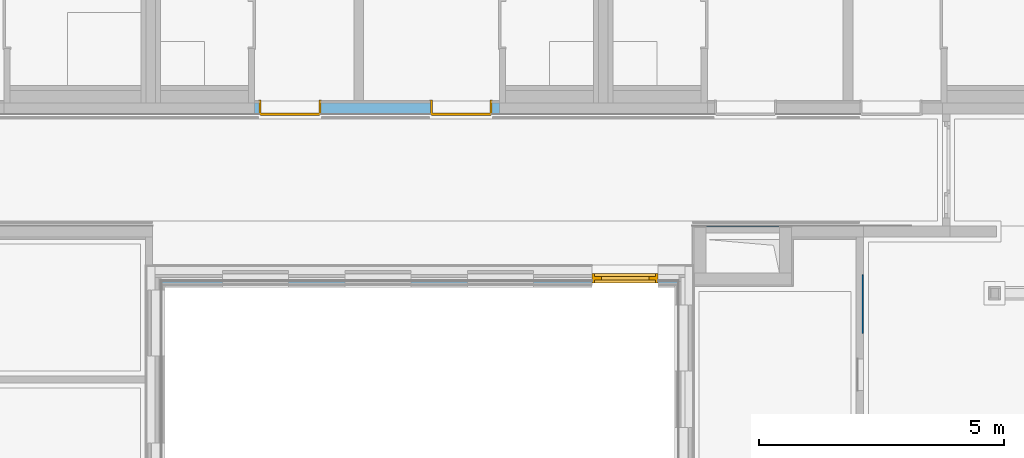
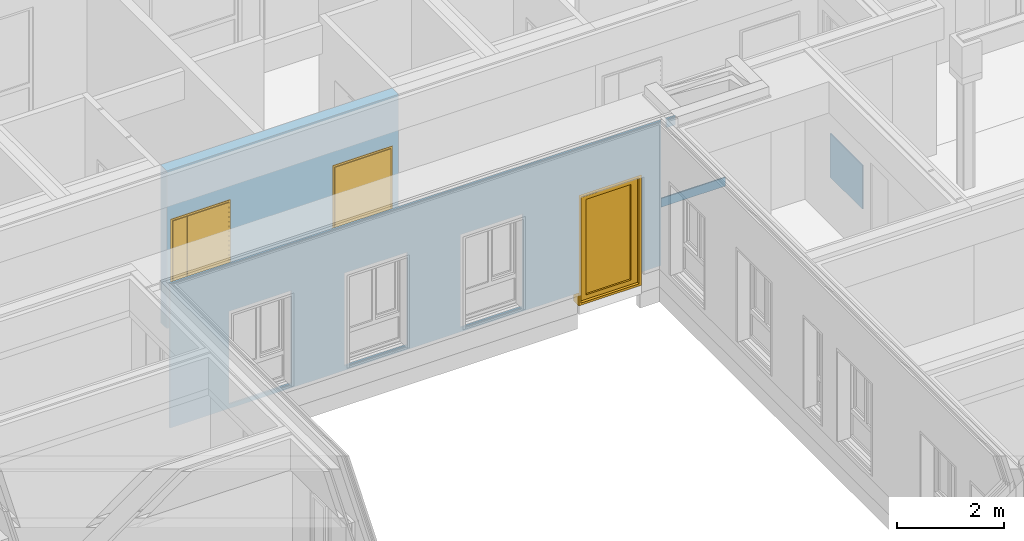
# One storey, part 85 of 207: 3 doors, 2 walls, 6 openings, plus 2 elements that do not belong to this part.
"""IFC4 building model written with IfcOpenShell, lengths in metres."""

from ifc_helpers import new_model, entity, si_unit, converted_unit, derived_unit, frame, frame_2d, origin, origin_with_axes, place, context, subcontext, project, spatial, polyline, rectangle, outline, extrude, clip, bounded_halfspace, closed_shell, open_shell, faceted_brep, surface_model, source, transform, mapped, material, type_object, element, fill, save


model = new_model("IFC4")

# Units and contexts
model_context = context("Model", 3, precision=1e-05, world=origin())
body_context = subcontext(model_context, "Body", "Model", "MODEL_VIEW")
ifc_project = project(units=[si_unit("LENGTHUNIT", "METRE"), si_unit("AREAUNIT", "SQUARE_METRE"), si_unit("VOLUMEUNIT", "CUBIC_METRE"), si_unit("MASSUNIT", "GRAM", prefix="KILO"), converted_unit("PLANEANGLEUNIT", "DEGREE", entity("IfcPlaneAngleMeasure", 0.0174532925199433), si_unit("PLANEANGLEUNIT", "RADIAN"), dimensions=[0, 0, 0, 0, 0, 0, 0]), derived_unit("THERMALTRANSMITTANCEUNIT", [(si_unit("POWERUNIT", "WATT"), 1), (si_unit("THERMODYNAMICTEMPERATUREUNIT", "KELVIN"), -1), (si_unit("LENGTHUNIT", "METRE"), -2)]), derived_unit("VOLUMETRICFLOWRATEUNIT", [(si_unit("LENGTHUNIT", "METRE"), 3), (converted_unit("TIMEUNIT", "hour", entity("IfcTimeMeasure", 3600.0), si_unit("TIMEUNIT", "SECOND"), dimensions=[0, 0, 1, 0, 0, 0, 0]), -1), (si_unit("LENGTHUNIT", "METRE"), -1)])], contexts=[model_context])

# Site, building, storey
site_placement = place(None, origin())
site = spatial("IfcSite", under=ifc_project, at=site_placement, Name="Psychiatrie Neubau Wunstorf", CompositionType="ELEMENT")
building_placement = place(site_placement, origin())
building = spatial("IfcBuilding", under=site, at=building_placement, Name="Neubau H2 Stationsgebäude", CompositionType="ELEMENT")
storey_placement = place(building_placement, frame((0.0, 0.0, -0.2)))
storey = spatial("IfcBuildingStorey", under=building, at=storey_placement, Name="H2 Ebene 0", CompositionType="ELEMENT", Elevation=-0.2)

# Wall, openings, door
ifc_material_1 = material(Name="WA-LB")
wall_1_placement = place(storey_placement, frame((26.861, 20.7, 0.5), z_axis=(0.0, 0.0, 1.0), x_axis=(-1.0, 0.0, 0.0)))
wall_1 = element("IfcWall", 1, at=wall_1_placement, inside=storey, material=ifc_material_1, context=body_context, shape_type="Clipping", body=[
    clip(extrude(rectangle(XDim=10.598, YDim=0.036, at=frame_2d((5.299, 0.018), x_axis=(1.0, 0.0))), frame((0.312, 0.0, 0.0), z_axis=(0.0, 0.0, 1.0), x_axis=(1.0, 0.0, 0.0)), (0.0, 0.0, 1.0), 3.3), bounded_halfspace(frame((0.098, 0.018, 3.1), z_axis=(1.16006977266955e-15, 6.31593542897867e-15, 1.0), x_axis=(1.0, 0.0, -2.3201395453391e-15)), True, origin_with_axes(), polyline([(0.0, 0.0), (0.196, 0.0), (0.196, 0.036), (0.0, 0.036), (0.0, 0.0)]))),
    clip(extrude(rectangle(XDim=0.196, YDim=0.036, at=frame_2d((0.098, 0.018), x_axis=(1.0, 0.0))), origin_with_axes(), (0.0, 0.0, 1.0), 3.3), bounded_halfspace(frame((0.098, 0.018, 3.1), z_axis=(1.16006977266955e-15, 6.31593542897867e-15, 1.0), x_axis=(1.0, 0.0, -2.3201395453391e-15)), True, origin_with_axes(), polyline([(0.0, 0.0), (0.196, 0.0), (0.196, 0.036), (0.0, 0.036), (0.0, 0.0)]))),
])
opening_1_placement = place(wall_1_placement, frame((9.64069999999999, 0.036, 0.1), z_axis=(0.0, -1.0, 0.0), x_axis=(0.0, 0.0, 1.0)))
element("IfcOpeningElement", 2, at=opening_1_placement, cuts=wall_1, Name="Fensteröffnung", ObjectType="Opening", context=body_context, shape_type="SweptSolid", body=[
    extrude(outline(polyline([(2.12, 1.35), (2.12, 0.0), (0.0, 0.0), (0.0, 1.35), (2.12, 1.35)])), origin_with_axes(), (0.0, 0.0, 1.0), 0.036),
])
opening_2_placement = place(wall_1_placement, frame((7.14069999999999, 0.036, 0.1), z_axis=(0.0, -1.0, 0.0), x_axis=(0.0, 0.0, 1.0)))
element("IfcOpeningElement", 3, at=opening_2_placement, cuts=wall_1, Name="Fensteröffnung", ObjectType="Opening", context=body_context, shape_type="SweptSolid", body=[
    extrude(outline(polyline([(2.12, 1.35), (2.12, 0.0), (0.0, 0.0), (0.0, 1.35), (2.12, 1.35)])), origin_with_axes(), (0.0, 0.0, 1.0), 0.036),
])
opening_3_placement = place(wall_1_placement, frame((4.64069999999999, 0.036, 0.1), z_axis=(0.0, -1.0, 0.0), x_axis=(0.0, 0.0, 1.0)))
element("IfcOpeningElement", 4, at=opening_3_placement, cuts=wall_1, Name="Fensteröffnung", ObjectType="Opening", context=body_context, shape_type="SweptSolid", body=[
    extrude(outline(polyline([(2.12, 1.35), (2.12, 0.0), (0.0, 0.0), (0.0, 1.35), (2.12, 1.35)])), origin_with_axes(), (0.0, 0.0, 1.0), 0.036),
])
opening_4_placement = place(wall_1_placement, frame((2.09083132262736, 0.036, -0.5), z_axis=(0.0, -1.0, 0.0), x_axis=(0.0, 0.0, 1.0)))
opening_4 = element("IfcOpeningElement", 5, at=opening_4_placement, cuts=wall_1, Name="Türöffnung", ObjectType="Opening", context=body_context, shape_type="SweptSolid", body=[
    extrude(outline(polyline([(2.72, 1.35), (2.72, 0.0), (0.0, 0.0), (0.0, 1.35), (2.72, 1.35)])), origin_with_axes(), (0.0, 0.0, 1.0), 0.036),
])
ifc_material_2 = material(Name="TA-1F-AG-D-O")
door_type_1 = type_object("IfcDoorType", Name="SMT", OperationType="SINGLE_SWING_LEFT", ParameterTakesPrecedence=False, PredefinedType="DOOR")
shared_shape_1 = source(origin_with_axes(), body_context, "Body", "SurfaceModel", [
    surface_model("IfcShellBasedSurfaceModel", [(0.0, 0.2, 2.72), (0.0, 0.2, 0.2), (0.05, 0.2, 0.2), (0.05, 0.2, 2.72), (0.0, 0.0, 0.2), (0.0, 0.0, 2.72), (0.05, 0.0, 2.72), (0.05, 0.0, 0.2)], [closed_shell([[[0, 1, 2, 3]], [[4, 5, 6, 7]], [[1, 0, 5, 4]], [[2, 1, 4, 7]], [[3, 2, 7, 6]], [[0, 3, 6, 5]]], orient=[[False], [False], [False], [False], [False], [False]])]),
    surface_model("IfcShellBasedSurfaceModel", [(1.3, 0.2, 2.72), (1.3, 0.2, 0.2), (1.35, 0.2, 0.2), (1.35, 0.2, 2.72), (1.3, 0.0, 0.2), (1.3, 0.0, 2.72), (1.35, 0.0, 2.72), (1.35, 0.0, 0.2)], [closed_shell([[[0, 1, 2, 3]], [[4, 5, 6, 7]], [[1, 0, 5, 4]], [[2, 1, 4, 7]], [[3, 2, 7, 6]], [[0, 3, 6, 5]]], orient=[[False], [False], [False], [False], [False], [False]])]),
    surface_model("IfcShellBasedSurfaceModel", [(0.05, 0.2, 0.25), (0.05, 0.2, 0.2), (1.3, 0.2, 0.2), (1.3, 0.2, 0.25), (0.05, 0.0, 0.2), (0.05, 0.0, 0.25), (1.3, 0.0, 0.25), (1.3, 0.0, 0.2)], [closed_shell([[[0, 1, 2, 3]], [[4, 5, 6, 7]], [[1, 0, 5, 4]], [[2, 1, 4, 7]], [[3, 2, 7, 6]], [[0, 3, 6, 5]]], orient=[[False], [False], [False], [False], [False], [False]])]),
    surface_model("IfcShellBasedSurfaceModel", [(0.05, 0.2, 2.72), (0.05, 0.2, 2.67), (1.3, 0.2, 2.67), (1.3, 0.2, 2.72), (0.05, 0.0, 2.67), (0.05, 0.0, 2.72), (1.3, 0.0, 2.72), (1.3, 0.0, 2.67)], [closed_shell([[[0, 1, 2, 3]], [[4, 5, 6, 7]], [[1, 0, 5, 4]], [[2, 1, 4, 7]], [[3, 2, 7, 6]], [[0, 3, 6, 5]]], orient=[[False], [False], [False], [False], [False], [False]])]),
    surface_model("IfcShellBasedSurfaceModel", [(0.05, 0.14, 2.67), (0.05, 0.14, 0.25), (0.13, 0.14, 0.25), (0.13, 0.14, 2.67), (0.05, 0.06, 0.25), (0.05, 0.06, 2.67), (0.13, 0.06, 2.67), (0.13, 0.06, 0.25)], [closed_shell([[[0, 1, 2, 3]], [[4, 5, 6, 7]], [[1, 0, 5, 4]], [[2, 1, 4, 7]], [[3, 2, 7, 6]], [[0, 3, 6, 5]]], orient=[[False], [False], [False], [False], [False], [False]])]),
    surface_model("IfcShellBasedSurfaceModel", [(1.22, 0.14, 2.67), (1.22, 0.14, 0.25), (1.3, 0.14, 0.25), (1.3, 0.14, 2.67), (1.22, 0.06, 0.25), (1.22, 0.06, 2.67), (1.3, 0.06, 2.67), (1.3, 0.06, 0.25)], [closed_shell([[[0, 1, 2, 3]], [[4, 5, 6, 7]], [[1, 0, 5, 4]], [[2, 1, 4, 7]], [[3, 2, 7, 6]], [[0, 3, 6, 5]]], orient=[[False], [False], [False], [False], [False], [False]])]),
    surface_model("IfcShellBasedSurfaceModel", [(0.13, 0.14, 2.67), (0.13, 0.14, 2.59), (1.22, 0.14, 2.59), (1.22, 0.14, 2.67), (0.13, 0.06, 2.59), (0.13, 0.06, 2.67), (1.22, 0.06, 2.67), (1.22, 0.06, 2.59)], [closed_shell([[[0, 1, 2, 3]], [[4, 5, 6, 7]], [[1, 0, 5, 4]], [[2, 1, 4, 7]], [[3, 2, 7, 6]], [[0, 3, 6, 5]]], orient=[[False], [False], [False], [False], [False], [False]])]),
    surface_model("IfcShellBasedSurfaceModel", [(0.11, 0.141, 2.61), (0.11, 0.141, 0.23), (0.19, 0.141, 0.23), (0.19, 0.141, 2.61), (0.11, 0.061, 0.23), (0.11, 0.061, 2.61), (0.19, 0.061, 2.61), (0.19, 0.061, 0.23)], [closed_shell([[[0, 1, 2, 3]], [[4, 5, 6, 7]], [[1, 0, 5, 4]], [[2, 1, 4, 7]], [[3, 2, 7, 6]], [[0, 3, 6, 5]]], orient=[[False], [False], [False], [False], [False], [False]])]),
    surface_model("IfcShellBasedSurfaceModel", [(1.16, 0.141, 2.61), (1.16, 0.141, 0.23), (1.24, 0.141, 0.23), (1.24, 0.141, 2.61), (1.16, 0.061, 0.23), (1.16, 0.061, 2.61), (1.24, 0.061, 2.61), (1.24, 0.061, 0.23)], [closed_shell([[[0, 1, 2, 3]], [[4, 5, 6, 7]], [[1, 0, 5, 4]], [[2, 1, 4, 7]], [[3, 2, 7, 6]], [[0, 3, 6, 5]]], orient=[[False], [False], [False], [False], [False], [False]])]),
    surface_model("IfcShellBasedSurfaceModel", [(0.19, 0.141, 0.35), (0.19, 0.141, 0.23), (1.16, 0.141, 0.23), (1.16, 0.141, 0.35), (0.19, 0.061, 0.23), (0.19, 0.061, 0.35), (1.16, 0.061, 0.35), (1.16, 0.061, 0.23)], [closed_shell([[[0, 1, 2, 3]], [[4, 5, 6, 7]], [[1, 0, 5, 4]], [[2, 1, 4, 7]], [[3, 2, 7, 6]], [[0, 3, 6, 5]]], orient=[[False], [False], [False], [False], [False], [False]])]),
    surface_model("IfcShellBasedSurfaceModel", [(0.19, 0.141, 2.61), (0.19, 0.141, 2.53), (1.16, 0.141, 2.53), (1.16, 0.141, 2.61), (0.19, 0.061, 2.53), (0.19, 0.061, 2.61), (1.16, 0.061, 2.61), (1.16, 0.061, 2.53)], [closed_shell([[[0, 1, 2, 3]], [[4, 5, 6, 7]], [[1, 0, 5, 4]], [[2, 1, 4, 7]], [[3, 2, 7, 6]], [[0, 3, 6, 5]]], orient=[[False], [False], [False], [False], [False], [False]])]),
    surface_model("IfcShellBasedSurfaceModel", [(0.19, 0.101, 0.35), (1.16, 0.101, 0.35), (1.16, 0.101, 2.53), (0.19, 0.101, 2.53)], [open_shell([[[0, 1, 2, 3]]], orient=[[False]])]),
])
door_1_placement = place(opening_4_placement, frame((0.0, 1.35, 0.2), z_axis=(1.0, 0.0, 0.0), x_axis=(0.0, -1.0, 0.0)))
door_1 = element("IfcDoor", 6, at=door_1_placement, inside=storey, type_object=door_type_1, material=ifc_material_2, Name="SMT", OverallHeight=2.72, OverallWidth=1.35, context=body_context, shape_type="MappedRepresentation", body=[
    mapped(shared_shape_1, transform((0.0, 0.0, 0.0), x_axis=(1.0, 0.0, 0.0), y_axis=(0.0, 1.0, 0.0), z_axis=(0.0, 0.0, 1.0), scale=1.0)),
])
fill(opening_4, door_1)

# Walls
wall_2_placement = place(storey_placement, frame((30.2918490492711, 19.634, 1.1)))
element("IfcWall", 7, at=wall_2_placement, inside=storey, Name="WV 1.1", context=body_context, shape_type="Brep", body=[
    faceted_brep([(0.025, 1.2, 0.0), (0.0, 1.2, 0.0), (0.0, 0.0, 0.0), (0.025, 0.0, 0.0), (0.0, 1.2, 1.0), (0.025, 1.2, 1.0), (0.025, 0.0, 1.0), (0.0, 0.0, 1.0)], [[[0, 1, 2, 3]], [[4, 5, 6, 7]], [[1, 0, 5, 4]], [[2, 1, 4, 7]], [[3, 2, 7, 6]], [[0, 3, 6, 5]]], orient=[[False], [False], [False], [False], [False], [False]]),
])
wall_3_placement = place(storey_placement, frame((27.1, 21.811, 0.9)))
element("IfcWall", 8, at=wall_3_placement, inside=storey, Name="WV 1.1", context=body_context, shape_type="Brep", body=[
    faceted_brep([(0.0, 0.025, 0.0), (0.0, 0.0, 0.0), (1.5, 0.0, 0.0), (1.5, 0.025, 0.0), (0.0, 0.0, 0.2), (0.0, 0.025, 0.2), (1.5, 0.025, 0.2), (1.5, 0.0, 0.2)], [[[0, 1, 2, 3]], [[4, 5, 6, 7]], [[1, 0, 5, 4]], [[2, 1, 4, 7]], [[3, 2, 7, 6]], [[0, 3, 6, 5]]], orient=[[False], [False], [False], [False], [False], [False]]),
])

# Wall, openings, doors
ifc_material_3 = material(Name="WI-HW 60")
wall_4_placement = place(storey_placement, frame((17.875, 24.1175, 0.0), z_axis=(0.0, 0.0, 1.0), x_axis=(1.0, 2.91038304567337e-15, 0.0)))
wall_4 = element("IfcWall", 9, at=wall_4_placement, inside=storey, material=ifc_material_3, context=body_context, shape_type="SweptSolid", body=[
    extrude(rectangle(XDim=5.0, YDim=0.232, at=frame_2d((2.5, 0.116), x_axis=(1.0, 0.0))), origin_with_axes(), (0.0, 0.0, 1.0), 3.6),
])
opening_5_placement = place(wall_4_placement, frame((0.09, 0.0, 0.0), z_axis=(2.940176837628e-15, 1.0, 0.0), x_axis=(0.0, 0.0, 1.0)))
opening_5 = element("IfcOpeningElement", 10, at=opening_5_placement, cuts=wall_4, Name="Türöffnung", ObjectType="Opening", context=body_context, shape_type="SweptSolid", body=[
    extrude(outline(polyline([(2.46, 1.26), (2.46, 0.0), (0.0, 0.0), (0.0, 1.26), (2.46, 1.26)])), origin_with_axes(), (0.0, 0.0, 1.0), 0.232),
])
opening_6_placement = place(wall_4_placement, frame((3.59, 0.0, 0.0), z_axis=(1.960117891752e-15, 1.0, 0.0), x_axis=(0.0, 0.0, 1.0)))
opening_6 = element("IfcOpeningElement", 11, at=opening_6_placement, cuts=wall_4, Name="Türöffnung", ObjectType="Opening", context=body_context, shape_type="SweptSolid", body=[
    extrude(outline(polyline([(2.46, 1.26), (2.46, 0.0), (0.0, 0.0), (0.0, 1.26), (2.46, 1.26)])), origin_with_axes(), (0.0, 0.0, 1.0), 0.232),
])
ifc_material_4 = material(Name="TI-2F-UZ-D")
door_type_2 = type_object("IfcDoorType", Name="SMT", OperationType="DOUBLE_DOOR_SINGLE_SWING", ParameterTakesPrecedence=False, PredefinedType="DOOR")
shared_shape_2 = source(origin_with_axes(), body_context, "Body", "Brep", [
    faceted_brep([(0.0, -0.015, 2.46), (0.04, -0.015, 2.46), (0.04, -0.015, 0.2), (0.0, -0.015, 0.2), (0.0, 0.287000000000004, 0.2), (0.04, 0.287000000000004, 0.2), (0.04, 0.287000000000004, 2.46), (0.0, 0.287000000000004, 2.46)], [[[0, 1, 2, 3]], [[4, 5, 6, 7]], [[3, 4, 7, 0]], [[2, 5, 4, 3]], [[1, 6, 5, 2]], [[0, 7, 6, 1]]], orient=[[False], [False], [False], [False], [False], [False]]),
    faceted_brep([(0.0, -0.015, 2.475), (0.0, -0.015, 0.2), (-0.015, -0.015, 0.2), (-0.015, -0.015, 2.475), (0.0, 0.0, 0.2), (0.0, 0.0, 2.475), (-0.015, 0.0, 2.475), (-0.015, 0.0, 0.2)], [[[0, 1, 2, 3]], [[4, 5, 6, 7]], [[1, 0, 5, 4]], [[2, 1, 4, 7]], [[3, 2, 7, 6]], [[0, 3, 6, 5]]], orient=[[False], [False], [False], [False], [False], [False]]),
    faceted_brep([(0.0, 0.272000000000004, 2.475), (0.0, 0.272000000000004, 0.2), (-0.015, 0.272000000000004, 0.2), (-0.015, 0.272000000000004, 2.475), (0.0, 0.287000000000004, 0.2), (0.0, 0.287000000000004, 2.475), (-0.015, 0.287000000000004, 2.475), (-0.015, 0.287000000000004, 0.2)], [[[0, 1, 2, 3]], [[4, 5, 6, 7]], [[1, 0, 5, 4]], [[2, 1, 4, 7]], [[3, 2, 7, 6]], [[0, 3, 6, 5]]], orient=[[False], [False], [False], [False], [False], [False]]),
    faceted_brep([(1.22, -0.0150000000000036, 2.46), (1.26, -0.0150000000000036, 2.46), (1.26, -0.0150000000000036, 0.2), (1.22, -0.0150000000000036, 0.2), (1.22, 0.287, 0.2), (1.26, 0.287, 0.2), (1.26, 0.287, 2.46), (1.22, 0.287, 2.46)], [[[0, 1, 2, 3]], [[4, 5, 6, 7]], [[3, 4, 7, 0]], [[2, 5, 4, 3]], [[1, 6, 5, 2]], [[0, 7, 6, 1]]], orient=[[False], [False], [False], [False], [False], [False]]),
    faceted_brep([(1.26, -0.0150000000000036, 2.475), (1.275, -0.0150000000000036, 2.475), (1.275, -0.0150000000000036, 0.2), (1.26, -0.0150000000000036, 0.2), (1.26, 0.0, 0.2), (1.275, 0.0, 0.2), (1.275, 0.0, 2.475), (1.26, 0.0, 2.475)], [[[0, 1, 2, 3]], [[4, 5, 6, 7]], [[3, 4, 7, 0]], [[2, 5, 4, 3]], [[1, 6, 5, 2]], [[0, 7, 6, 1]]], orient=[[False], [False], [False], [False], [False], [False]]),
    faceted_brep([(1.26, 0.272, 2.475), (1.275, 0.272, 2.475), (1.275, 0.272, 0.2), (1.26, 0.272, 0.2), (1.26, 0.287, 0.2), (1.275, 0.287, 0.2), (1.275, 0.287, 2.475), (1.26, 0.287, 2.475)], [[[0, 1, 2, 3]], [[4, 5, 6, 7]], [[3, 4, 7, 0]], [[2, 5, 4, 3]], [[1, 6, 5, 2]], [[0, 7, 6, 1]]], orient=[[False], [False], [False], [False], [False], [False]]),
    faceted_brep([(0.04, -0.015, 2.46), (1.22, -0.0150000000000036, 2.46), (1.22, -0.0150000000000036, 2.42), (0.04, -0.015, 2.42), (0.04, 0.287000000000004, 2.42), (1.22, 0.287, 2.42), (1.22, 0.287, 2.46), (0.04, 0.287000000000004, 2.46)], [[[0, 1, 2, 3]], [[4, 5, 6, 7]], [[3, 4, 7, 0]], [[2, 5, 4, 3]], [[1, 6, 5, 2]], [[0, 7, 6, 1]]], orient=[[False], [False], [False], [False], [False], [False]]),
    faceted_brep([(0.0, -0.015, 2.475), (1.26, -0.0150000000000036, 2.475), (1.26, -0.0150000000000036, 2.46), (0.0, -0.015, 2.46), (0.0, 0.0, 2.46), (1.26, 0.0, 2.46), (1.26, 0.0, 2.475), (0.0, 0.0, 2.475)], [[[0, 1, 2, 3]], [[4, 5, 6, 7]], [[3, 4, 7, 0]], [[2, 5, 4, 3]], [[1, 6, 5, 2]], [[0, 7, 6, 1]]], orient=[[False], [False], [False], [False], [False], [False]]),
    faceted_brep([(0.0, 0.272000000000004, 2.475), (1.26, 0.272, 2.475), (1.26, 0.272, 2.46), (0.0, 0.272000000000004, 2.46), (0.0, 0.287000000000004, 2.46), (1.26, 0.287, 2.46), (1.26, 0.287, 2.475), (0.0, 0.287000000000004, 2.475)], [[[0, 1, 2, 3]], [[4, 5, 6, 7]], [[3, 4, 7, 0]], [[2, 5, 4, 3]], [[1, 6, 5, 2]], [[0, 7, 6, 1]]], orient=[[False], [False], [False], [False], [False], [False]]),
    faceted_brep([(0.025, 0.252000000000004, 2.435), (0.925, 0.252000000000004, 2.435), (0.925, 0.252000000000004, 0.2), (0.025, 0.252000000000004, 0.2), (0.025, 0.302000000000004, 0.2), (0.925, 0.302000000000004, 0.2), (0.925, 0.302000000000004, 2.435), (0.025, 0.302000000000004, 2.435)], [[[0, 1, 2, 3]], [[4, 5, 6, 7]], [[3, 4, 7, 0]], [[2, 5, 4, 3]], [[1, 6, 5, 2]], [[0, 7, 6, 1]]], orient=[[False], [False], [False], [False], [False], [False]]),
    faceted_brep([(0.926, 0.252000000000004, 2.435), (1.235, 0.252, 2.435), (1.235, 0.252, 0.2), (0.926, 0.252000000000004, 0.2), (0.926, 0.302000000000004, 0.2), (1.235, 0.302, 0.2), (1.235, 0.302, 2.435), (0.926, 0.302000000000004, 2.435)], [[[0, 1, 2, 3]], [[4, 5, 6, 7]], [[3, 4, 7, 0]], [[2, 5, 4, 3]], [[1, 6, 5, 2]], [[0, 7, 6, 1]]], orient=[[False], [False], [False], [False], [False], [False]]),
])
door_2_placement = place(opening_5_placement, frame((0.0, 1.26, 0.272000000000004), z_axis=(1.0, 0.0, 0.0), x_axis=(0.0, -1.0, -2.91707855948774e-15)))
door_2 = element("IfcDoor", 12, at=door_2_placement, inside=storey, type_object=door_type_2, material=ifc_material_4, Name="SMT", OverallHeight=2.46, OverallWidth=1.26, context=body_context, shape_type="MappedRepresentation", body=[
    mapped(shared_shape_2, transform((0.0, 0.0, 0.0), x_axis=(1.0, 0.0, 0.0), y_axis=(0.0, 1.0, 0.0), z_axis=(0.0, 0.0, 1.0), scale=1.0)),
])
fill(opening_5, door_2)
ifc_material_5 = material(Name="TI-2F-UZ-D")
door_type_3 = type_object("IfcDoorType", Name="SMT", OperationType="DOUBLE_DOOR_SINGLE_SWING", ParameterTakesPrecedence=False, PredefinedType="DOOR")
shared_shape_3 = source(origin_with_axes(), body_context, "Body", "Brep", [
    faceted_brep([(1.26, -0.0150000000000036, 2.46), (1.26, -0.0150000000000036, 0.2), (1.22, -0.0150000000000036, 0.2), (1.22, -0.0150000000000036, 2.46), (1.26, 0.287, 0.2), (1.26, 0.287, 2.46), (1.22, 0.287, 2.46), (1.22, 0.287, 0.2)], [[[0, 1, 2, 3]], [[4, 5, 6, 7]], [[1, 0, 5, 4]], [[2, 1, 4, 7]], [[3, 2, 7, 6]], [[0, 3, 6, 5]]], orient=[[False], [False], [False], [False], [False], [False]]),
    faceted_brep([(1.26, -0.0150000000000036, 2.475), (1.275, -0.0150000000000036, 2.475), (1.275, -0.0150000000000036, 0.2), (1.26, -0.0150000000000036, 0.2), (1.26, 0.0, 0.2), (1.275, 0.0, 0.2), (1.275, 0.0, 2.475), (1.26, 0.0, 2.475)], [[[0, 1, 2, 3]], [[4, 5, 6, 7]], [[3, 4, 7, 0]], [[2, 5, 4, 3]], [[1, 6, 5, 2]], [[0, 7, 6, 1]]], orient=[[False], [False], [False], [False], [False], [False]]),
    faceted_brep([(1.26, 0.272, 2.475), (1.275, 0.272, 2.475), (1.275, 0.272, 0.2), (1.26, 0.272, 0.2), (1.26, 0.287, 0.2), (1.275, 0.287, 0.2), (1.275, 0.287, 2.475), (1.26, 0.287, 2.475)], [[[0, 1, 2, 3]], [[4, 5, 6, 7]], [[3, 4, 7, 0]], [[2, 5, 4, 3]], [[1, 6, 5, 2]], [[0, 7, 6, 1]]], orient=[[False], [False], [False], [False], [False], [False]]),
    faceted_brep([(0.04, -0.015, 2.46), (0.04, -0.015, 0.2), (0.0, -0.015, 0.2), (0.0, -0.015, 2.46), (0.04, 0.287000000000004, 0.2), (0.04, 0.287000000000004, 2.46), (0.0, 0.287000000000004, 2.46), (0.0, 0.287000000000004, 0.2)], [[[0, 1, 2, 3]], [[4, 5, 6, 7]], [[1, 0, 5, 4]], [[2, 1, 4, 7]], [[3, 2, 7, 6]], [[0, 3, 6, 5]]], orient=[[False], [False], [False], [False], [False], [False]]),
    faceted_brep([(0.0, -0.015, 2.475), (0.0, -0.015, 0.2), (-0.015, -0.015, 0.2), (-0.015, -0.015, 2.475), (0.0, 0.0, 0.2), (0.0, 0.0, 2.475), (-0.015, 0.0, 2.475), (-0.015, 0.0, 0.2)], [[[0, 1, 2, 3]], [[4, 5, 6, 7]], [[1, 0, 5, 4]], [[2, 1, 4, 7]], [[3, 2, 7, 6]], [[0, 3, 6, 5]]], orient=[[False], [False], [False], [False], [False], [False]]),
    faceted_brep([(0.0, 0.272000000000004, 2.475), (0.0, 0.272000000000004, 0.2), (-0.015, 0.272000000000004, 0.2), (-0.015, 0.272000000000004, 2.475), (0.0, 0.287000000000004, 0.2), (0.0, 0.287000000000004, 2.475), (-0.015, 0.287000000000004, 2.475), (-0.015, 0.287000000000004, 0.2)], [[[0, 1, 2, 3]], [[4, 5, 6, 7]], [[1, 0, 5, 4]], [[2, 1, 4, 7]], [[3, 2, 7, 6]], [[0, 3, 6, 5]]], orient=[[False], [False], [False], [False], [False], [False]]),
    faceted_brep([(1.22, -0.0150000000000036, 2.46), (1.22, -0.0150000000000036, 2.42), (0.04, -0.015, 2.42), (0.04, -0.015, 2.46), (1.22, 0.287, 2.42), (1.22, 0.287, 2.46), (0.04, 0.287000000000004, 2.46), (0.04, 0.287000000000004, 2.42)], [[[0, 1, 2, 3]], [[4, 5, 6, 7]], [[1, 0, 5, 4]], [[2, 1, 4, 7]], [[3, 2, 7, 6]], [[0, 3, 6, 5]]], orient=[[False], [False], [False], [False], [False], [False]]),
    faceted_brep([(1.26, -0.0150000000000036, 2.475), (1.26, -0.0150000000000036, 2.46), (0.0, -0.015, 2.46), (0.0, -0.015, 2.475), (1.26, 0.0, 2.46), (1.26, 0.0, 2.475), (0.0, 0.0, 2.475), (0.0, 0.0, 2.46)], [[[0, 1, 2, 3]], [[4, 5, 6, 7]], [[1, 0, 5, 4]], [[2, 1, 4, 7]], [[3, 2, 7, 6]], [[0, 3, 6, 5]]], orient=[[False], [False], [False], [False], [False], [False]]),
    faceted_brep([(1.26, 0.272, 2.475), (1.26, 0.272, 2.46), (0.0, 0.272000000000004, 2.46), (0.0, 0.272000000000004, 2.475), (1.26, 0.287, 2.46), (1.26, 0.287, 2.475), (0.0, 0.287000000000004, 2.475), (0.0, 0.287000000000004, 2.46)], [[[0, 1, 2, 3]], [[4, 5, 6, 7]], [[1, 0, 5, 4]], [[2, 1, 4, 7]], [[3, 2, 7, 6]], [[0, 3, 6, 5]]], orient=[[False], [False], [False], [False], [False], [False]]),
    faceted_brep([(1.235, 0.252, 2.435), (1.235, 0.252, 0.2), (0.335, 0.252000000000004, 0.2), (0.335, 0.252000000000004, 2.435), (1.235, 0.302, 0.2), (1.235, 0.302, 2.435), (0.335, 0.302000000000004, 2.435), (0.335, 0.302000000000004, 0.2)], [[[0, 1, 2, 3]], [[4, 5, 6, 7]], [[1, 0, 5, 4]], [[2, 1, 4, 7]], [[3, 2, 7, 6]], [[0, 3, 6, 5]]], orient=[[False], [False], [False], [False], [False], [False]]),
    faceted_brep([(0.334, 0.252000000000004, 2.435), (0.334, 0.252000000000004, 0.2), (0.025, 0.252000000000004, 0.2), (0.025, 0.252000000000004, 2.435), (0.334, 0.302000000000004, 0.2), (0.334, 0.302000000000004, 2.435), (0.025, 0.302000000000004, 2.435), (0.025, 0.302000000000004, 0.2)], [[[0, 1, 2, 3]], [[4, 5, 6, 7]], [[1, 0, 5, 4]], [[2, 1, 4, 7]], [[3, 2, 7, 6]], [[0, 3, 6, 5]]], orient=[[False], [False], [False], [False], [False], [False]]),
])
door_3_placement = place(opening_6_placement, frame((0.0, 1.26, 0.272000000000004), z_axis=(1.0, 0.0, 0.0), x_axis=(0.0, -1.0, -1.93701961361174e-15)))
door_3 = element("IfcDoor", 13, at=door_3_placement, inside=storey, type_object=door_type_3, material=ifc_material_5, Name="SMT", OverallHeight=2.46, OverallWidth=1.26, context=body_context, shape_type="MappedRepresentation", body=[
    mapped(shared_shape_3, transform((0.0, 0.0, 0.0), x_axis=(1.0, 0.0, 0.0), y_axis=(0.0, 1.0, 0.0), z_axis=(0.0, 0.0, 1.0), scale=1.0)),
])
fill(opening_6, door_3)

save(model, "model.ifc")
